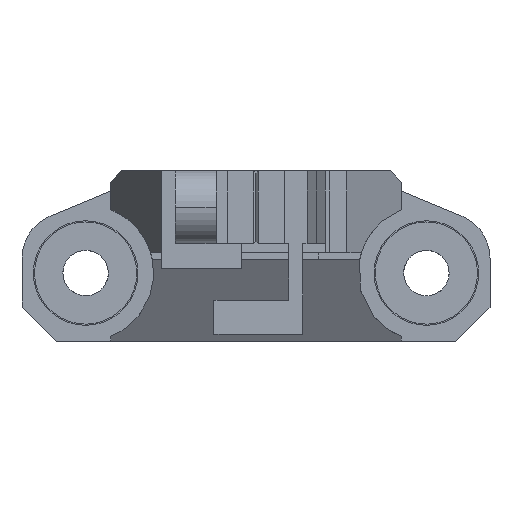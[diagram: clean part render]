
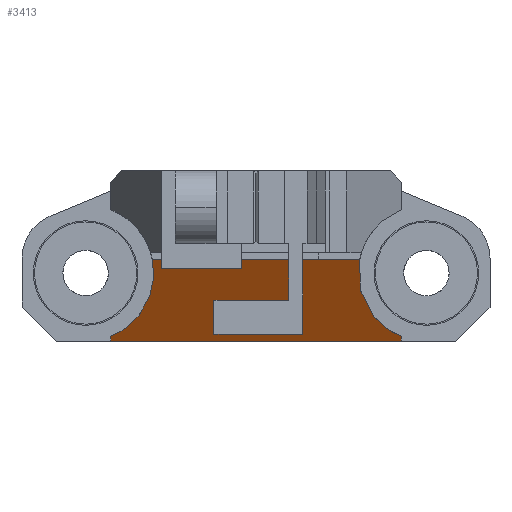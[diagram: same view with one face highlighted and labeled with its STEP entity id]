
A CAD part, left-side view. The second image highlights one B-rep face of the part: STEP entity #3413.
In plain terms, the highlighted planar face has unit normal (-0.267, 0, -0.964).
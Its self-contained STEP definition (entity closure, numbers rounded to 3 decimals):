
#15 = CARTESIAN_POINT ( 'NONE',  ( 12.446, -6.4, -3.541 ) ) ;
#91 = ORIENTED_EDGE ( 'NONE', *, *, #3193, .F. ) ;
#264 = VERTEX_POINT ( 'NONE', #3457 ) ;
#273 = VECTOR ( 'NONE', #5331, 1000. ) ;
#369 = CARTESIAN_POINT ( 'NONE',  ( 0.208, 2.75, -0.15 ) ) ;
#377 =( BOUNDED_CURVE ( )  B_SPLINE_CURVE ( 3, ( #5684, #4839, #3468, #1643 ),
 .UNSPECIFIED., .F., .T. ) 
 B_SPLINE_CURVE_WITH_KNOTS ( ( 4, 4 ),
 ( 0.375, 1.773 ),
 .UNSPECIFIED. ) 
 CURVE ( )  GEOMETRIC_REPRESENTATION_ITEM ( )  RATIONAL_B_SPLINE_CURVE ( ( 1., 0.844, 0.844, 1. ) ) 
 REPRESENTATION_ITEM ( '' )  );
#404 = EDGE_CURVE ( 'NONE', #5102, #264, #5280, .T. ) ;
#449 = EDGE_CURVE ( 'NONE', #4089, #524, #2417, .T. ) ;
#450 = CARTESIAN_POINT ( 'NONE',  ( 0.2, 4.561, -0.148 ) ) ;
#456 = ORIENTED_EDGE ( 'NONE', *, *, #2216, .F. ) ;
#524 = VERTEX_POINT ( 'NONE', #450 ) ;
#649 = VECTOR ( 'NONE', #4708, 1000. ) ;
#662 = CARTESIAN_POINT ( 'NONE',  ( 0.2, -2.756, -0.148 ) ) ;
#746 = DIRECTION ( 'NONE',  ( 0., 1., 0. ) ) ;
#834 = LINE ( 'NONE', #3032, #1325 ) ;
#871 = CARTESIAN_POINT ( 'NONE',  ( -17.447, -6.4, 4.742 ) ) ;
#1087 = ORIENTED_EDGE ( 'NONE', *, *, #404, .F. ) ;
#1271 = VECTOR ( 'NONE', #5154, 1000. ) ;
#1318 = VECTOR ( 'NONE', #5356, 1000. ) ;
#1325 = VECTOR ( 'NONE', #3935, 1000. ) ;
#1440 = VERTEX_POINT ( 'NONE', #369 ) ;
#1620 = EDGE_CURVE ( 'NONE', #4089, #1440, #1842, .T. ) ;
#1640 = ORIENTED_EDGE ( 'NONE', *, *, #4328, .F. ) ;
#1643 = CARTESIAN_POINT ( 'NONE',  ( 0.2, 4.561, -0.148 ) ) ;
#1667 = CARTESIAN_POINT ( 'NONE',  ( 0.2, -4.561, -0.148 ) ) ;
#1761 = LINE ( 'NONE', #5699, #273 ) ;
#1797 = CARTESIAN_POINT ( 'NONE',  ( 12.446, 6.4, -3.541 ) ) ;
#1842 = LINE ( 'NONE', #3763, #1271 ) ;
#1888 = CARTESIAN_POINT ( 'NONE',  ( 0.2, 2.75, -0.148 ) ) ;
#1964 = LINE ( 'NONE', #3001, #4367 ) ;
#2064 = LINE ( 'NONE', #2645, #5453 ) ;
#2216 = EDGE_CURVE ( 'NONE', #2664, #5268, #1761, .T. ) ;
#2417 = LINE ( 'NONE', #5080, #3462 ) ;
#2550 = ORIENTED_EDGE ( 'NONE', *, *, #4680, .F. ) ;
#2645 = CARTESIAN_POINT ( 'NONE',  ( 0.2, -10.3, -0.148 ) ) ;
#2649 = DIRECTION ( 'NONE',  ( 0., 1., 0. ) ) ;
#2664 = VERTEX_POINT ( 'NONE', #3298 ) ;
#2713 = VERTEX_POINT ( 'NONE', #2894 ) ;
#2894 = CARTESIAN_POINT ( 'NONE',  ( 13.2, -6.4, -3.75 ) ) ;
#2942 = ORIENTED_EDGE ( 'NONE', *, *, #449, .T. ) ;
#3001 = CARTESIAN_POINT ( 'NONE',  ( 13.2, -10.3, -3.75 ) ) ;
#3032 = CARTESIAN_POINT ( 'NONE',  ( 0.208, -10.3, -0.15 ) ) ;
#3056 = EDGE_CURVE ( 'NONE', #2713, #2664, #1964, .T. ) ;
#3193 = EDGE_CURVE ( 'NONE', #3715, #4282, #4555, .T. ) ;
#3298 = CARTESIAN_POINT ( 'NONE',  ( 13.2, 6.4, -3.75 ) ) ;
#3413 = ADVANCED_FACE ( 'NONE', ( #3628 ), #5332, .F. ) ;
#3457 = CARTESIAN_POINT ( 'NONE',  ( 12.446, -6.4, -3.541 ) ) ;
#3462 = VECTOR ( 'NONE', #2649, 1000. ) ;
#3468 = CARTESIAN_POINT ( 'NONE',  ( 5.591, 4.255, -1.641 ) ) ;
#3628 = FACE_OUTER_BOUND ( 'NONE', #5603, .T. ) ;
#3715 = VERTEX_POINT ( 'NONE', #3747 ) ;
#3747 = CARTESIAN_POINT ( 'NONE',  ( 0.208, -2.756, -0.15 ) ) ;
#3763 = CARTESIAN_POINT ( 'NONE',  ( 0.2, 2.75, -0.148 ) ) ;
#3771 = CARTESIAN_POINT ( 'NONE',  ( 0.2, -2.756, -0.148 ) ) ;
#3845 = ORIENTED_EDGE ( 'NONE', *, *, #3056, .F. ) ;
#3908 = EDGE_CURVE ( 'NONE', #5102, #4282, #2064, .T. ) ;
#3935 = DIRECTION ( 'NONE',  ( 0., -1., 0. ) ) ;
#4089 = VERTEX_POINT ( 'NONE', #1888 ) ;
#4282 = VERTEX_POINT ( 'NONE', #3771 ) ;
#4328 = EDGE_CURVE ( 'NONE', #5268, #524, #377, .T. ) ;
#4367 = VECTOR ( 'NONE', #746, 1000. ) ;
#4476 = CARTESIAN_POINT ( 'NONE',  ( 5.591, -4.255, -1.641 ) ) ;
#4492 = CARTESIAN_POINT ( 'NONE',  ( 0.2, -4.561, -0.148 ) ) ;
#4555 = LINE ( 'NONE', #662, #649 ) ;
#4680 = EDGE_CURVE ( 'NONE', #264, #2713, #5286, .T. ) ;
#4708 = DIRECTION ( 'NONE',  ( -0.964, 0., 0.267 ) ) ;
#4839 = CARTESIAN_POINT ( 'NONE',  ( 10.428, 4.981, -2.982 ) ) ;
#4853 = ORIENTED_EDGE ( 'NONE', *, *, #3908, .T. ) ;
#4885 = DIRECTION ( 'NONE',  ( 0., 1., 0. ) ) ;
#4952 = CARTESIAN_POINT ( 'NONE',  ( 10.428, -4.981, -2.982 ) ) ;
#5067 = EDGE_CURVE ( 'NONE', #1440, #3715, #834, .T. ) ;
#5080 = CARTESIAN_POINT ( 'NONE',  ( 0.2, -10.3, -0.148 ) ) ;
#5095 = ORIENTED_EDGE ( 'NONE', *, *, #5067, .F. ) ;
#5102 = VERTEX_POINT ( 'NONE', #1667 ) ;
#5154 = DIRECTION ( 'NONE',  ( 0.964, 0., -0.267 ) ) ;
#5268 = VERTEX_POINT ( 'NONE', #1797 ) ;
#5280 =( BOUNDED_CURVE ( )  B_SPLINE_CURVE ( 3, ( #4492, #4476, #4952, #15 ),
 .UNSPECIFIED., .F., .F. ) 
 B_SPLINE_CURVE_WITH_KNOTS ( ( 4, 4 ),
 ( 4.51, 5.908 ),
 .UNSPECIFIED. ) 
 CURVE ( )  GEOMETRIC_REPRESENTATION_ITEM ( )  RATIONAL_B_SPLINE_CURVE ( ( 1., 0.844, 0.844, 1. ) ) 
 REPRESENTATION_ITEM ( '' )  );
#5286 = LINE ( 'NONE', #871, #1318 ) ;
#5331 = DIRECTION ( 'NONE',  ( -0.964, 0., 0.267 ) ) ;
#5332 = PLANE ( 'NONE',  #5449 ) ;
#5350 = CARTESIAN_POINT ( 'NONE',  ( 0.2, -10.3, -0.148 ) ) ;
#5356 = DIRECTION ( 'NONE',  ( 0.964, 0., -0.267 ) ) ;
#5449 = AXIS2_PLACEMENT_3D ( 'NONE', #5350, #5821, #5782 ) ;
#5453 = VECTOR ( 'NONE', #4885, 1000. ) ;
#5603 = EDGE_LOOP ( 'NONE', ( #456, #3845, #2550, #1087, #4853, #91, #5095, #5698, #2942, #1640 ) ) ;
#5684 = CARTESIAN_POINT ( 'NONE',  ( 12.446, 6.4, -3.541 ) ) ;
#5698 = ORIENTED_EDGE ( 'NONE', *, *, #1620, .F. ) ;
#5699 = CARTESIAN_POINT ( 'NONE',  ( -17.447, 6.4, 4.742 ) ) ;
#5782 = DIRECTION ( 'NONE',  ( 0.964, 0., -0.267 ) ) ;
#5821 = DIRECTION ( 'NONE',  ( 0.267, 0., 0.964 ) ) ;
